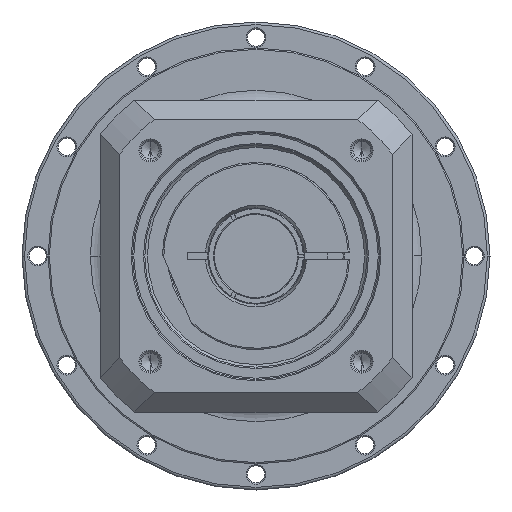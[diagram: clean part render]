
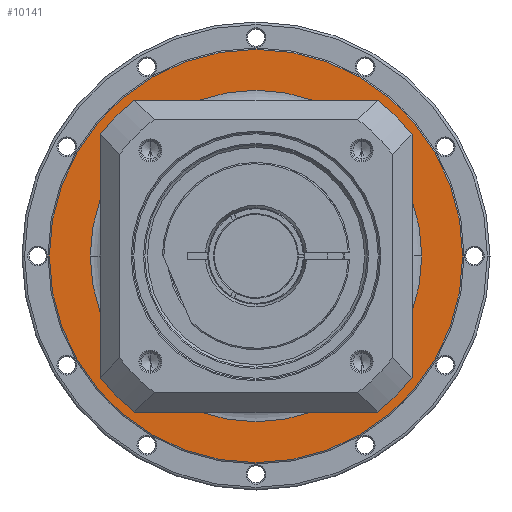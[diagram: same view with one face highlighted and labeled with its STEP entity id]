
A CAD part, left-side view. The second image highlights one B-rep face of the part: STEP entity #10141.
In plain terms, the highlighted planar face has unit normal (-1, 0, 0) as drawn and (1, 0, 0) by its records, which use the part's own axes.
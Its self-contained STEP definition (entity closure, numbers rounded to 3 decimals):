
#9172=CARTESIAN_POINT('',(-10.5,0.,0.));
#9173=DIRECTION('',(-1.,0.,0.));
#9174=DIRECTION('',(0.,-1.,0.));
#9175=AXIS2_PLACEMENT_3D('',#9172,#9173,#9174);
#9177=CARTESIAN_POINT('',(-10.5,0.,0.));
#9178=DIRECTION('',(-1.,0.,0.));
#9179=DIRECTION('',(0.,1.,0.));
#9180=AXIS2_PLACEMENT_3D('',#9177,#9178,#9179);
#9182=CARTESIAN_POINT('',(-10.5,0.,0.));
#9183=DIRECTION('',(-1.,0.,0.));
#9184=DIRECTION('',(0.,-1.,0.));
#9185=AXIS2_PLACEMENT_3D('',#9182,#9183,#9184);
#9187=CARTESIAN_POINT('',(-10.5,0.,0.));
#9188=DIRECTION('',(-1.,0.,0.));
#9189=DIRECTION('',(0.,1.,0.));
#9190=AXIS2_PLACEMENT_3D('',#9187,#9188,#9189);
#9434=CARTESIAN_POINT('',(-10.5,-79.5,0.));
#9435=CARTESIAN_POINT('',(-10.5,79.5,0.));
#9436=VERTEX_POINT('',#9434);
#9437=VERTEX_POINT('',#9435);
#9492=CARTESIAN_POINT('',(-10.5,-63.75,0.));
#9493=CARTESIAN_POINT('',(-10.5,63.75,0.));
#9494=VERTEX_POINT('',#9492);
#9495=VERTEX_POINT('',#9493);
#10126=CARTESIAN_POINT('',(-10.5,0.,0.));
#10127=DIRECTION('',(1.,0.,0.));
#10128=DIRECTION('',(0.,-1.,0.));
#10129=AXIS2_PLACEMENT_3D('',#10126,#10127,#10128);
#10130=PLANE('',#10129);
#10131=ORIENTED_EDGE('',*,*,#10082,.T.);
#10132=ORIENTED_EDGE('',*,*,#10067,.T.);
#10133=EDGE_LOOP('',(#10131,#10132));
#10134=FACE_OUTER_BOUND('',#10133,.F.);
#10136=ORIENTED_EDGE('',*,*,#10135,.F.);
#10138=ORIENTED_EDGE('',*,*,#10137,.F.);
#10139=EDGE_LOOP('',(#10136,#10138));
#10140=FACE_BOUND('',#10139,.F.);
#10141=ADVANCED_FACE('',(#10134,#10140),#10130,.T.);
#9176=CIRCLE('',#9175,63.75);
#9181=CIRCLE('',#9180,63.75);
#9186=CIRCLE('',#9185,79.5);
#9191=CIRCLE('',#9190,79.5);
#10067=EDGE_CURVE('',#9437,#9436,#9191,.T.);
#10082=EDGE_CURVE('',#9436,#9437,#9186,.T.);
#10135=EDGE_CURVE('',#9494,#9495,#9176,.T.);
#10137=EDGE_CURVE('',#9495,#9494,#9181,.T.);
